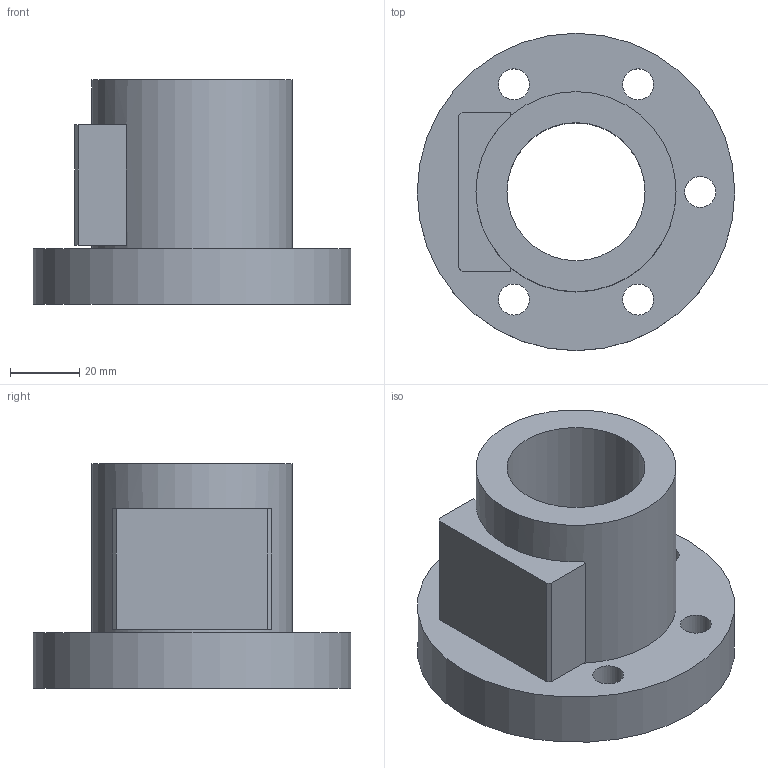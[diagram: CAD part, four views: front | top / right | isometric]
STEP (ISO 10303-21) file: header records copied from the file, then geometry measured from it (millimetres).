
FILE_DESCRIPTION(/* description */ (''),/* implementation_level */ '2;1');
FILE_NAME(/* name */ '40-5B2',/* time_stamp */ '2006-07-31T10:09:13+08:00',/* author */ (''),/* organization */ (''),/* preprocessor_version */ 'ST-DEVELOPER v9',/* originating_system */ 'UGS - NX 4.0',/* authorisation */ '');
FILE_SCHEMA (('CONFIG_CONTROL_DESIGN'));
Length unit declared in the file: millimetre
Products named in the file (1): 40-5B2
Bounding box: 92 x 92 x 65 mm (x, y, z)
Volume: 158690.9 mm3; surface area: 36523.3 mm2
Topology: 1 solids, 1 shells, 30 faces, 67 edges, 46 vertices
Faces by surface type: plane 17, cylinder 13
Full cylindrical faces by diameter (mm): 9 x5, 14 x5, 40 x1, 58 x1, 92 x1
Entity records: 860 total; most frequent: DIRECTION 140, CARTESIAN_POINT 123, ORIENTED_EDGE 100, EDGE_LOOP 62, AXIS2_PLACEMENT_3D 59, EDGE_CURVE 50, FACE_BOUND 45, VERTEX_POINT 42
